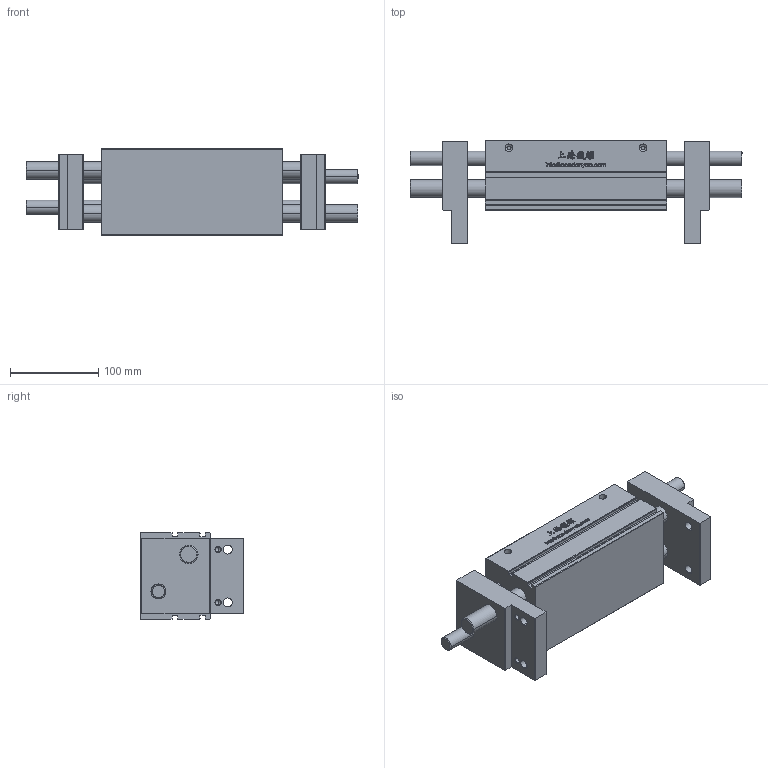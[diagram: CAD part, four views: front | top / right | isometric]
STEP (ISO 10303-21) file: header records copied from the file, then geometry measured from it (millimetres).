
FILE_DESCRIPTION (( 'STEP AP203' ), '1' );
FILE_NAME ('PLE-40-C-80+80-原始檔-組合-W106.04.20.STEP', '2017-04-20T07:03:14', ( 'DanyaoCAD' ), ( '' ), 'SwSTEP 2.0', 'SolidWorks 2016', '' );
FILE_SCHEMA (( 'CONFIG_CONTROL_DESIGN' ));
Length unit declared in the file: millimetre
Products named in the file (3): Griffa; Corpo; PLE-40-C-80+80-原始檔-組合-W106.04.20
Assembly tree (3 placements, depth 2):
  PLE-40-C-80+80-原始檔-組合-W106.04.20
    Griffa  x2
    Corpo
Bounding box: 376 x 117 x 98 mm (x, y, z)
Volume: 2119953.8 mm3; surface area: 285378.9 mm2
Topology: 3 solids, 3 shells, 1018 faces, 2833 edges, 1856 vertices
Faces by surface type: bspline 640, plane 238, cylinder 79, cone 61
Entity records: 47922 total; most frequent: CARTESIAN_POINT 26951, ORIENTED_EDGE 5408, EDGE_CURVE 2704, DIRECTION 2233, VERTEX_POINT 1790, B_SPLINE_CURVE_WITH_KNOTS 1300, LINE 1257, VECTOR 1257
